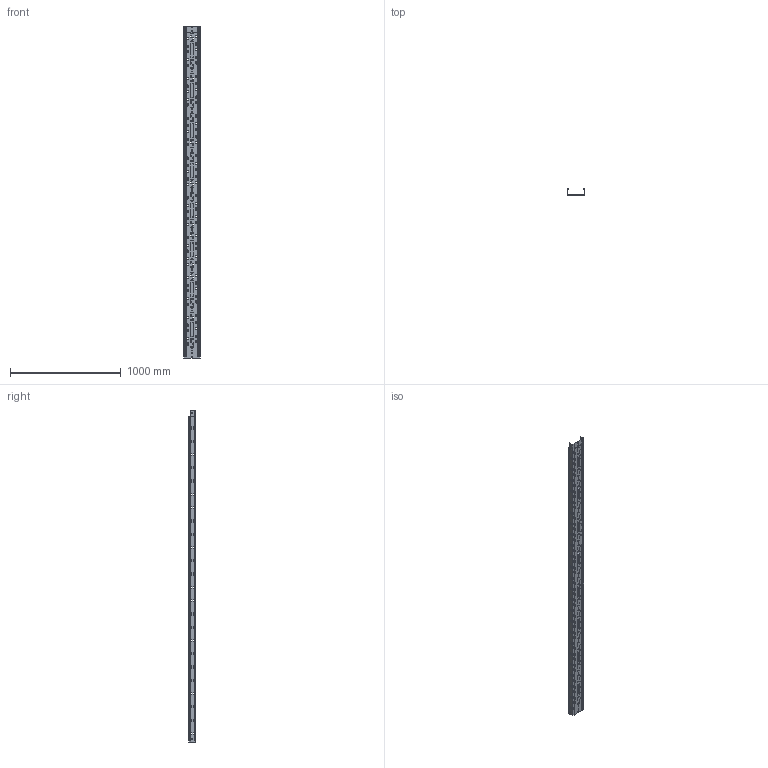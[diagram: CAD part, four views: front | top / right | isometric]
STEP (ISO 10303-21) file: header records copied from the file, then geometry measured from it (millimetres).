
FILE_DESCRIPTION (( 'STEP AP203' ), '1' );
FILE_NAME ('ERE 150x60.STEP', '2020-02-12T09:20:44', ( '' ), ( '' ), 'SwSTEP 2.0', 'SolidWorks 2019', '' );
FILE_SCHEMA (( 'CONFIG_CONTROL_DESIGN' ));
Products named in the file (1): ERE 150x60
Bounding box: 150 x 60.8 x 3000 mm (x, y, z)
Surface area: 1604783.4 mm2 (no closed solid volume)
Topology: 0 solids, 3 shells, 11386 faces, 33670 edges, 22368 vertices
Faces by surface type: plane 10422, cylinder 876, torus 64, cone 24
Entity records: 375027 total; most frequent: CARTESIAN_POINT 67583, ORIENTED_EDGE 67236, DIRECTION 58298, EDGE_CURVE 33670, VECTOR 31716, LINE 31716, VERTEX_POINT 22368, AXIS2_PLACEMENT_3D 13291
